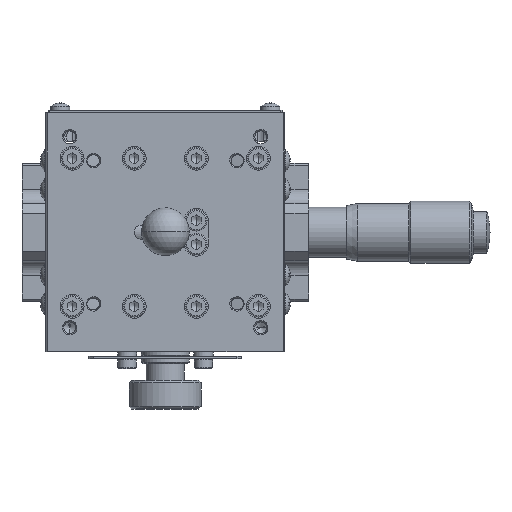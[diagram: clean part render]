
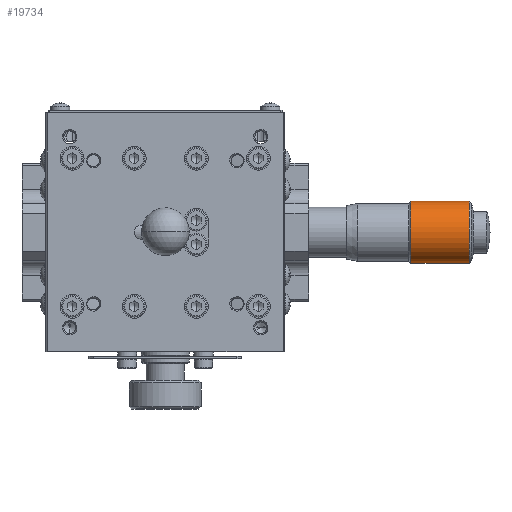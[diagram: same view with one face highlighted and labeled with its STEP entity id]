
A CAD part, top view. The second image highlights one B-rep face of the part: STEP entity #19734.
In plain terms, the highlighted cylindrical face has radius 6.5 mm (diameter 13 mm), a partial arc.
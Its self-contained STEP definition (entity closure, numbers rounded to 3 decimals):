
#14535 = DIRECTION ( 'NONE',  ( 0., -1., 0. ) ) ;
#14536 = DIRECTION ( 'NONE',  ( -1., 0., 0. ) ) ;
#14537 = CARTESIAN_POINT ( 'NONE',  ( -2.616, 0., 0. ) ) ;
#14538 = AXIS2_PLACEMENT_3D ( 'NONE', #14537, #14536, #14535 ) ;
#14539 = CYLINDRICAL_SURFACE ( 'NONE', #14538, 6.5 ) ;
#14541 = FACE_OUTER_BOUND ( 'NONE', #19677, .T. ) ;
#14561 = DIRECTION ( 'NONE',  ( 0., -1., 0. ) ) ;
#14562 = DIRECTION ( 'NONE',  ( -1., 0., 0. ) ) ;
#14563 = CARTESIAN_POINT ( 'NONE',  ( 41.95, 0., 0. ) ) ;
#14564 = AXIS2_PLACEMENT_3D ( 'NONE', #14563, #14562, #14561 ) ;
#14565 = CIRCLE ( 'NONE', #14564, 6.5 ) ;
#14651 = CARTESIAN_POINT ( 'NONE',  ( 41.95, 6.5, 0. ) ) ;
#14785 = CARTESIAN_POINT ( 'NONE',  ( 41.95, -6.5, 0. ) ) ;
#14827 = CARTESIAN_POINT ( 'NONE',  ( 54.125, 6.5, 0. ) ) ;
#14830 = CARTESIAN_POINT ( 'NONE',  ( 54.125, -6.5, 0. ) ) ;
#14831 = DIRECTION ( 'NONE',  ( 0., -1., 0. ) ) ;
#14832 = DIRECTION ( 'NONE',  ( -1., 0., 0. ) ) ;
#14833 = CARTESIAN_POINT ( 'NONE',  ( 54.125, 0., 0. ) ) ;
#14834 = AXIS2_PLACEMENT_3D ( 'NONE', #14833, #14832, #14831 ) ;
#14835 = CIRCLE ( 'NONE', #14834, 6.5 ) ;
#14841 = DIRECTION ( 'NONE',  ( -1., 0., 0. ) ) ;
#14842 = VECTOR ( 'NONE', #14841, 1000. ) ;
#14843 = CARTESIAN_POINT ( 'NONE',  ( -2.616, -6.5, 0. ) ) ;
#14844 = LINE ( 'NONE', #14843, #14842 ) ;
#14883 = DIRECTION ( 'NONE',  ( -1., 0., 0. ) ) ;
#14884 = VECTOR ( 'NONE', #14883, 1000. ) ;
#14885 = CARTESIAN_POINT ( 'NONE',  ( -2.616, 6.5, 0. ) ) ;
#14886 = LINE ( 'NONE', #14885, #14884 ) ;
#19385 = ORIENTED_EDGE ( 'NONE', *, *, #19720, .F. ) ;
#19660 = ORIENTED_EDGE ( 'NONE', *, *, #19904, .T. ) ;
#19677 = EDGE_LOOP ( 'NONE', ( #19660, #19909, #19385, #19985 ) ) ;
#19720 = EDGE_CURVE ( 'NONE', #19861, #19784, #14565, .T. ) ;
#19734 = ADVANCED_FACE ( 'NONE', ( #14541 ), #14539, .T. ) ;
#19784 = VERTEX_POINT ( 'NONE', #14651 ) ;
#19861 = VERTEX_POINT ( 'NONE', #14785 ) ;
#19897 = EDGE_CURVE ( 'NONE', #19905, #19861, #14844, .T. ) ;
#19904 = EDGE_CURVE ( 'NONE', #19905, #19907, #14835, .T. ) ;
#19905 = VERTEX_POINT ( 'NONE', #14830 ) ;
#19907 = VERTEX_POINT ( 'NONE', #14827 ) ;
#19909 = ORIENTED_EDGE ( 'NONE', *, *, #19911, .T. ) ;
#19911 = EDGE_CURVE ( 'NONE', #19907, #19784, #14886, .T. ) ;
#19985 = ORIENTED_EDGE ( 'NONE', *, *, #19897, .F. ) ;
